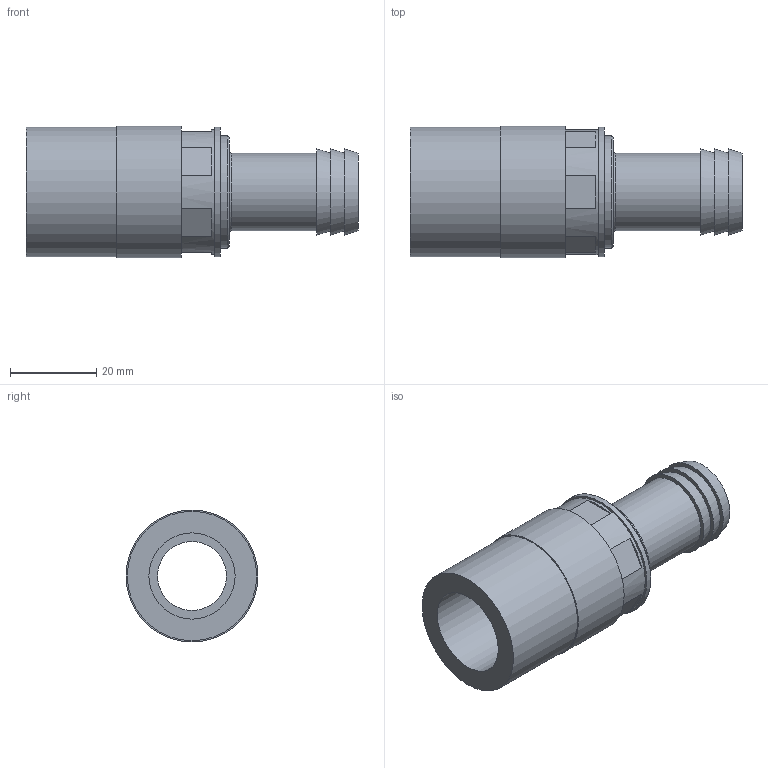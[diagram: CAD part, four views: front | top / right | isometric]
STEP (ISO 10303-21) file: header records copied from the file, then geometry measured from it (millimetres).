
FILE_DESCRIPTION(/* description */ ('STEP AP214'),/* implementation_level */ '2;1');
FILE_NAME(/* name */ 'SK119',/* time_stamp */ '2024-12-10T09:23:20+01:00',/* author */ ('License CC BY-ND 4.0'),/* organization */ ('CADENAS'),/* preprocessor_version */ 'ST-DEVELOPER v19.3',/* originating_system */ 'PARTsolutions',/* authorisation */ ' ');
FILE_SCHEMA (('AUTOMOTIVE_DESIGN {1 0 10303 214 3 1 1}'));
Length unit declared in the file: millimetre
Products named in the file (1): SK119
Bounding box: 77 x 30.6 x 30.6 mm (x, y, z)
Volume: 21685.3 mm3; surface area: 11775.8 mm2
Topology: 1 solids, 1 shells, 36 faces, 73 edges, 48 vertices
Faces by surface type: plane 23, cylinder 8, cone 3, torus 2
Full cylindrical faces by diameter (mm): 16 x1, 18 x1, 20 x1, 26 x1, 29 x1, 30 x2, 30.6 x1
Entity records: 916 total; most frequent: DIRECTION 168, CARTESIAN_POINT 143, ORIENTED_EDGE 118, AXIS2_PLACEMENT_3D 72, EDGE_LOOP 60, FACE_BOUND 60, EDGE_CURVE 59, VERTEX_POINT 47
